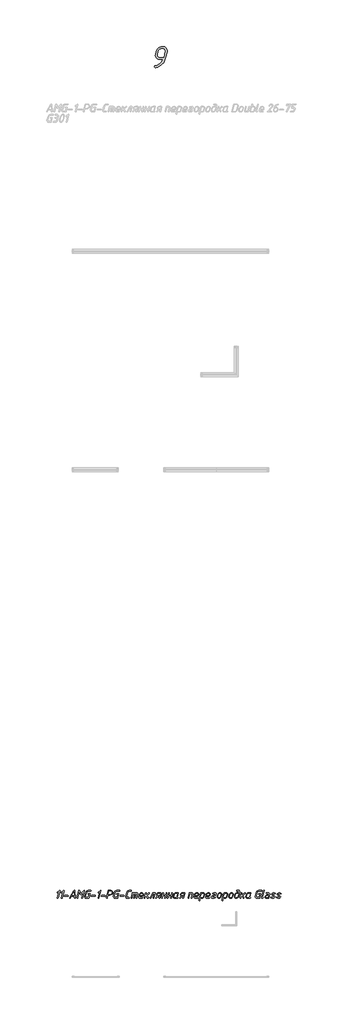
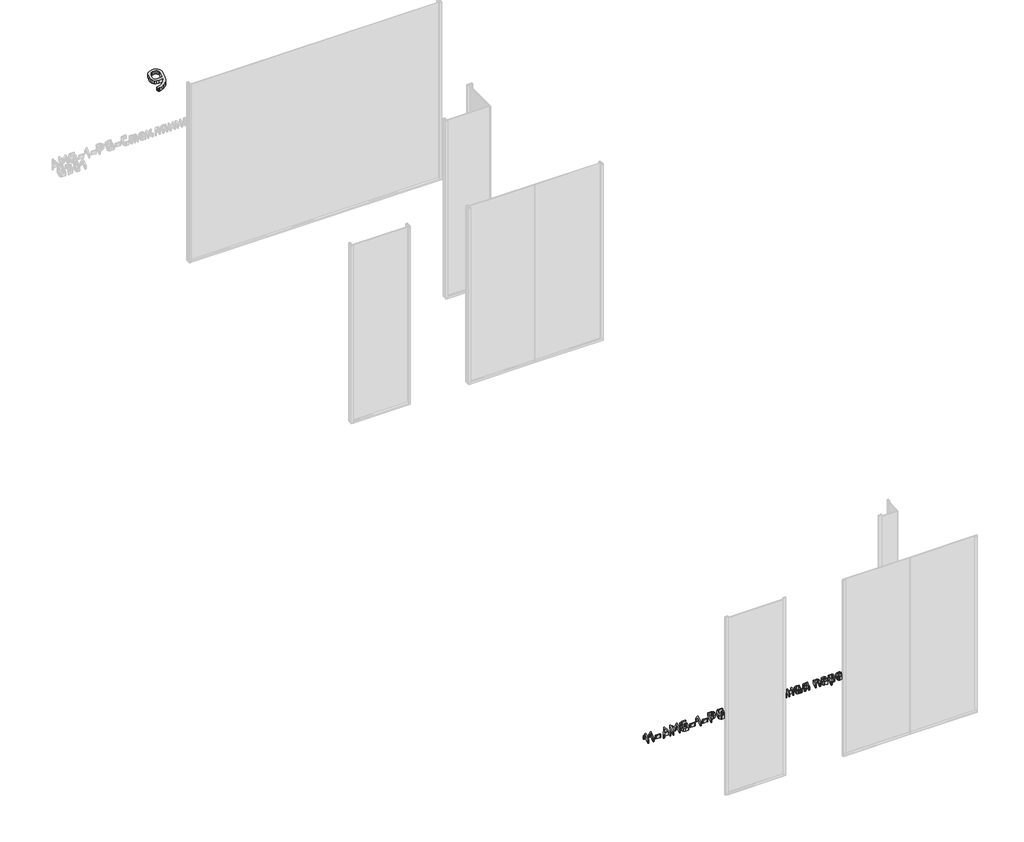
# One storey, part 5 of 22: 2 proxies.
"""IFC4 building model written with IfcOpenShell, lengths in millimetres."""

import ifcopenshell
import ifcopenshell.guid

model = None  # the IFC model being written
_history = None  # IfcOwnerHistory: only IFC2X3 demands one
_inside = {}  # id of a spatial element -> (the spatial element, [elements in it])
_under = {}  # id of a project, library or spatial element -> (it, [spatial elements below it])
_declared = {}  # id of a project -> (the project, [libraries it declares])
_typed = {}  # id of a type object -> (the type object, [elements of that type])
_made_of = {}  # id of a material, layer set ... -> (it, [elements and type objects made of it])


def new_model(schema):
    """Start an empty IFC model of exactly this schema.

    Asked for "IFC4X3", IfcOpenShell would pick the latest addendum, in which some entities
    have other attributes; the version numbers below select the first issue.
    IFC2X3 requires an IfcOwnerHistory on every rooted entity: one is made here for all.
    """
    global model, _history
    if schema == "IFC4X3":
        model = ifcopenshell.file(schema_version=(4, 3, 0, 0))
    else:
        model = ifcopenshell.file(schema=schema)
    _inside.clear()
    _under.clear()
    _declared.clear()
    _typed.clear()
    _made_of.clear()
    _history = None
    if model.schema == "IFC2X3":
        org = make("IfcOrganization", Name="unknown")
        user = make(
            "IfcPersonAndOrganization",
            ThePerson=make("IfcPerson", FamilyName="unknown"),
            TheOrganization=org,
        )
        app = make(
            "IfcApplication",
            ApplicationDeveloper=org,
            Version="unknown",
            ApplicationFullName="unknown",
            ApplicationIdentifier="unknown",
        )
        _history = make(
            "IfcOwnerHistory",
            OwningUser=user,
            OwningApplication=app,
            ChangeAction="ADDED",
            CreationDate=0,
        )
    return model


def make(cls, **values):
    """One entity of the class cls with the attributes given. An attribute that is None is left unset."""
    return model.create_entity(
        cls, **{name: value for name, value in values.items() if value is not None}
    )


def rooted(cls, **values):
    """An entity with a GlobalId (a new one), such as an element, a storey or a relation."""
    return make(cls, GlobalId=ifcopenshell.guid.new(), OwnerHistory=_history, **values)


def si_unit(unit_type, name, prefix=None):
    """IfcSIUnit, for example si_unit("LENGTHUNIT", "METRE", prefix="MILLI")."""
    return make("IfcSIUnit", UnitType=unit_type, Prefix=prefix, Name=name)


def assignment(units):
    """IfcUnitAssignment: the units of a project."""
    return None if units is None else make("IfcUnitAssignment", Units=units)


def point(xyz):
    """IfcCartesianPoint."""
    return None if xyz is None else make("IfcCartesianPoint", Coordinates=xyz)


def direction(xyz):
    """IfcDirection."""
    return None if xyz is None else make("IfcDirection", DirectionRatios=xyz)


def frame(location, z_axis=None, x_axis=None):
    """IfcAxis2Placement3D, a coordinate frame: its origin and axes. An axis left out is left unset."""
    return make(
        "IfcAxis2Placement3D",
        Location=point(location),
        Axis=direction(z_axis),
        RefDirection=direction(x_axis),
    )


def origin():
    """The frame at (0, 0, 0) with its axes left unset."""
    return frame((0.0, 0.0, 0.0))


def origin_with_axes():
    """The frame at (0, 0, 0) with the z axis (0, 0, 1) and the x axis (1, 0, 0) written out."""
    return frame((0.0, 0.0, 0.0), z_axis=(0.0, 0.0, 1.0), x_axis=(1.0, 0.0, 0.0))


def place(relative_to, where):
    """IfcLocalPlacement: puts the frame where relative to a parent placement (None: the world)."""
    return make(
        "IfcLocalPlacement", PlacementRelTo=relative_to, RelativePlacement=where
    )


def context(
    kind, dimensions, precision=None, world=None, true_north=None, identifier=None
):
    """IfcGeometricRepresentationContext, for example the 3D "Model" context."""
    return make(
        "IfcGeometricRepresentationContext",
        ContextIdentifier=identifier,
        ContextType=kind,
        CoordinateSpaceDimension=dimensions,
        Precision=precision,
        WorldCoordinateSystem=world,
        TrueNorth=true_north,
    )


def project(units=None, contexts=None):
    """IfcProject with its units and contexts."""
    return rooted(
        "IfcProject",
        Name="project",
        RepresentationContexts=contexts,
        UnitsInContext=assignment(units),
    )


def spatial(cls, under=None, at=None, **own):
    """A site, building, storey or space (cls), placed at a placement, below another one or the project."""
    s = rooted(cls, ObjectPlacement=at, **own)
    if under is not None:
        _under.setdefault(under.id(), (under, []))[1].append(s)
    return s


def polyline(points):
    """IfcPolyline through the points."""
    return make("IfcPolyline", Points=[point(p) for p in points])


def outline(outer, holes=None, kind="AREA"):
    """IfcArbitraryClosedProfileDef: a profile drawn as a closed curve; with holes, ...WithVoids."""
    if holes is None:
        return make("IfcArbitraryClosedProfileDef", ProfileType=kind, OuterCurve=outer)
    return make(
        "IfcArbitraryProfileDefWithVoids",
        ProfileType=kind,
        OuterCurve=outer,
        InnerCurves=holes,
    )


def extrude(swept, where, along, depth):
    """IfcExtrudedAreaSolid: the profile swept, set in the frame where, extruded along a direction by depth."""
    return make(
        "IfcExtrudedAreaSolid",
        SweptArea=swept,
        Position=where,
        ExtrudedDirection=direction(along),
        Depth=depth,
    )


def shape(context_of_items, identifier, shape_type, items):
    """IfcShapeRepresentation: the items that make up one representation, for example the "Body"."""
    return make(
        "IfcShapeRepresentation",
        ContextOfItems=context_of_items,
        RepresentationIdentifier=identifier,
        RepresentationType=shape_type,
        Items=items,
    )


def made_of(thing, what):
    """Note that an element or type object is made of a material, layer set ...; save() writes the relation."""
    if what is not None:
        _made_of.setdefault(what.id(), (what, []))[1].append(thing)
    return thing


def element(
    cls,
    number,
    at=None,
    inside=None,
    cuts=None,
    type_object=None,
    material=None,
    context=None,
    identifier="Body",
    shape_type=None,
    held_by="IfcProductDefinitionShape",
    body=None,
    shapes=None,
    **own,
):
    """One element of the class cls, such as IfcWall. Its Tag is "e" and its number.

    at: its placement. inside: the storey or other place that contains it. cuts: it is an
    opening in that element (IfcRelVoidsElement). A single representation is given by context,
    identifier, shape_type and body (its items); several are given by shapes. held_by: the class
    of the entity that holds the representations. save() writes the other relations.
    """
    e = rooted(cls, Tag="e%d" % number, ObjectPlacement=at, **own)
    if body is not None:
        shapes = [shape(context, identifier, shape_type, body)]
    if shapes is not None:
        e.Representation = make(held_by, Representations=shapes)
    if inside is not None:
        _inside.setdefault(inside.id(), (inside, []))[1].append(e)
    if cuts is not None:
        rooted(
            "IfcRelVoidsElement", RelatingBuildingElement=cuts, RelatedOpeningElement=e
        )
    if type_object is not None:
        _typed.setdefault(type_object.id(), (type_object, []))[1].append(e)
    return made_of(e, material)


def aggregate(whole, parts):
    """IfcRelAggregates: a whole, such as a stair, and the parts it consists of."""
    return rooted("IfcRelAggregates", RelatingObject=whole, RelatedObjects=parts)


def save(model, path):
    """Write the relations noted so far, then the file.

    IfcRelAggregates (storeys below a building ...), IfcRelContainedInSpatialStructure (elements
    in a storey), IfcRelDefinesByType, IfcRelAssociatesMaterial and IfcRelDeclares: one each for
    every whole, place, type object, material and project.
    """
    for whole, parts in _under.values():
        aggregate(whole, parts)
    for where, things in _inside.values():
        rooted(
            "IfcRelContainedInSpatialStructure",
            RelatedElements=things,
            RelatingStructure=where,
        )
    for kind, things in _typed.values():
        rooted("IfcRelDefinesByType", RelatedObjects=things, RelatingType=kind)
    for what, things in _made_of.values():
        rooted("IfcRelAssociatesMaterial", RelatedObjects=things, RelatingMaterial=what)
    for by, libraries in _declared.values():
        rooted("IfcRelDeclares", RelatingContext=by, RelatedDefinitions=libraries)
    model.write(path)


model = new_model("IFC4")

# Units and contexts
model_context = context("Model", 3, world=origin())
ifc_project = project(units=[si_unit("LENGTHUNIT", "METRE", prefix="MILLI")], contexts=[model_context])

# Site, building, storey
site = spatial("IfcSite", under=ifc_project)
building = spatial("IfcBuilding", under=site)
storey = spatial("IfcBuildingStorey", under=building, Name="Уровень 1", Elevation=0.0)

# Proxies
placement = place(None, origin())
element("IfcBuildingElementProxy", 1, Name="100", ObjectType="100", at=placement, inside=storey, context=model_context, shape_type="SweptSolid", body=[
    extrude(outline(polyline([(-34022.593669, -50085.838992), (-34007.6750749, -50087.480337), (-33993.6021231, -50092.4043719), (-33967.9931461, -50112.1005118), (-33950.0548768, -50139.6538), (-33944.0754537, -50169.7906252), (-33946.2062058, -50185.9843412), (-33978.2740251, -50307.4372115), (-33989.6785428, -50342.3748875), (-34004.3424454, -50373.7835054), (-34022.2657329, -50401.663065), (-34043.4484053, -50426.0135665), (-34067.8904625, -50446.8350098), (-34095.5919046, -50464.1273949), (-34126.5527315, -50477.8907218), (-34160.7729434, -50488.1249905), (-34165.8867484, -50488.1249905), (-34173.5175044, -50486.633464), (-34180.0029812, -50482.1588846), (-34185.9158183, -50468.5220711), (-34182.5865181, -50455.44458), (-34172.5986176, -50450.0910653), (-34137.654283, -50441.7811321), (-34104.41455, -50425.8004913), (-34077.307388, -50406.0710584), (-34055.4338859, -50383.7447715), (-34038.7940436, -50358.8216304), (-34027.3878612, -50331.3016352), (-34087.0489203, -50331.3016352), (-34118.6639548, -50325.6018733), (-34132.2142065, -50318.4771709), (-34144.2596145, -50308.5025876), (-34161.1990938, -50282.8003902), (-34166.8455869, -50251.2918934), (-34164.0756091, -50229.0255338), (-34153.2087734, -50188.1150933), (-34141.835884, -50155.0351668), (-34127.10706, -50128.8801846), (-34108.6294441, -50110.0496629), (-34085.0513402, -50096.5992902), (-34056.3727485, -50088.5290665), (-34022.593669, -50085.838992)]), holes=[polyline([(-34033.1408919, -50126.7494325), (-34061.3400644, -50130.5847863), (-34083.8261578, -50142.0908477), (-34100.599172, -50161.2676167), (-34111.6591072, -50188.1150933), (-34122.525943, -50229.0255338), (-34125.9351464, -50251.931119), (-34122.82558, -50268.7574021), (-34113.4968809, -50280.7761757), (-34097.9490491, -50287.9874399), (-34076.1820846, -50290.3911946), (-34014.0706605, -50290.3911946), (-33987.4362592, -50188.1150933), (-33984.9858942, -50172.8802157), (-33988.4350492, -50154.1961832), (-33998.7825141, -50139.4806764), (-34014.2704185, -50129.9322435), (-34033.1408919, -50126.7494325)])]), origin_with_axes(), (0.0, 0.0, 1.0), 50.0),
])
element("IfcBuildingElementProxy", 2, Name="30", ObjectType="30", at=placement, inside=storey, context=model_context, shape_type="SweptSolid", body=[
    extrude(outline(polyline([(-36008.4270725, -66210.2044631), (-36029.8810828, -66226.7044747), (-36035.4743071, -66228.182684), (-36040.5281848, -66225.4060477), (-36041.9464667, -66219.752896), (-36038.9900481, -66214.7589457), (-35999.9173813, -66185.6741794), (-35995.4827535, -66183.1172769), (-35989.8495776, -66184.9750264), (-35987.9718523, -66190.5482749), (-35988.2115619, -66192.7056614), (-36024.447665, -66328.381302), (-36027.0345312, -66332.5762202), (-36031.5990017, -66333.9745263), (-36036.892589, -66331.7372366), (-36039.2297577, -66326.6633831), (-36038.8701933, -66324.3861418), (-36008.4270725, -66210.2044631)])), origin_with_axes(), (0.0, 0.0, 1.0), 50.0),
    extrude(outline(polyline([(-35931.7199965, -66210.2044631), (-35953.1740069, -66226.7044747), (-35958.7672311, -66228.182684), (-35963.8211088, -66225.4060477), (-35965.2393907, -66219.752896), (-35962.2829721, -66214.7589457), (-35923.2103053, -66185.6741794), (-35918.7756775, -66183.1172769), (-35913.1425016, -66184.9750264), (-35911.2647763, -66190.5482749), (-35911.5044859, -66192.7056614), (-35947.740589, -66328.381302), (-35950.3274552, -66332.5762202), (-35954.8919257, -66333.9745263), (-35960.185513, -66331.7372366), (-35962.5226817, -66326.6633831), (-35962.1631173, -66324.3861418), (-35931.7199965, -66210.2044631)])), origin_with_axes(), (0.0, 0.0, 1.0), 50.0),
    extrude(outline(polyline([(-35837.0346996, -66295.6209883), (-35899.1194892, -66295.6209883), (-35904.7227014, -66293.7033114), (-35906.5904388, -66287.9502807), (-35904.7227014, -66282.19725), (-35899.1194892, -66280.2795731), (-35837.0346996, -66280.2795731), (-35831.4314874, -66282.19725), (-35829.56375, -66287.9502807), (-35831.4314874, -66293.7033114), (-35837.0346996, -66295.6209883)])), origin_with_axes(), (0.0, 0.0, 1.0), 50.0),
    extrude(outline(polyline([(-35715.9813453, -66295.6209883), (-35772.1133462, -66295.6209883), (-35792.8881793, -66330.2590273), (-35799.2804357, -66333.9745263), (-35804.5939987, -66331.7372366), (-35806.7513852, -66326.4236735), (-35805.6327404, -66322.4285133), (-35723.0128273, -66186.6729695), (-35716.5406678, -66183.1172769), (-35711.1871531, -66184.8551716), (-35709.0297666, -66190.0688556), (-35698.6023984, -66326.6633831), (-35700.5000995, -66332.1467405), (-35706.1932028, -66333.9745263), (-35711.5167538, -66332.2066679), (-35713.5842492, -66326.9030927), (-35715.9813453, -66295.6209883)]), holes=[polyline([(-35717.0999902, -66280.2795731), (-35722.2137953, -66213.8001073), (-35762.8845262, -66280.2795731), (-35717.0999902, -66280.2795731)])]), origin_with_axes(), (0.0, 0.0, 1.0), 50.0),
    extrude(outline(polyline([(-35620.8965324, -66213.7601557), (-35651.459508, -66328.381302), (-35653.9964347, -66332.5762202), (-35658.6507963, -66333.9745263), (-35663.9244078, -66331.7372366), (-35666.2416007, -66326.6633831), (-35665.9219879, -66324.3861418), (-35629.6459332, -66188.7105012), (-35627.1189944, -66184.5155829), (-35622.4945965, -66183.1172769), (-35615.4631145, -66187.6717595), (-35591.3722984, -66244.9623569), (-35534.6410235, -66185.514373), (-35529.3274604, -66183.1172769), (-35523.6942845, -66184.9750264), (-35521.8165592, -66190.5482749), (-35522.0562688, -66192.7056614), (-35558.2923719, -66328.381302), (-35560.8792382, -66332.5762202), (-35565.4437087, -66333.9745263), (-35570.737296, -66331.7372366), (-35573.0744647, -66326.6633831), (-35572.7149003, -66324.3861418), (-35544.0696016, -66217.0761386), (-35588.6555895, -66263.5798035), (-35593.9691526, -66265.8170932), (-35600.8008765, -66261.3025621), (-35620.8965324, -66213.7601557)])), origin_with_axes(), (0.0, 0.0, 1.0), 50.0),
    extrude(outline(polyline([(-35404.2389943, -66198.4586921), (-35452.9000457, -66198.4586921), (-35465.5647035, -66201.2453163), (-35476.0719749, -66209.6051891), (-35482.1046668, -66220.9913956), (-35502.3201774, -66296.1004075), (-35503.1192095, -66301.6936318), (-35497.945477, -66313.9587737), (-35485.0610853, -66318.6331111), (-35446.1881765, -66318.6331111), (-35430.0477293, -66259.8243529), (-35443.7910804, -66259.8243529), (-35449.4242563, -66257.906676), (-35451.3019816, -66252.1536453), (-35449.4242563, -66246.4006146), (-35443.7910804, -66244.4829377), (-35418.3419099, -66244.4829377), (-35413.907282, -66245.8412921), (-35412.4290727, -66249.9163555), (-35412.5489276, -66251.9538873), (-35432.684535, -66326.5035767), (-35436.1703123, -66332.1067889), (-35442.5525807, -66333.9745263), (-35489.1361487, -66333.9745263), (-35503.3589191, -66329.8295476), (-35514.3855612, -66317.3946115), (-35518.5804795, -66302.5326155), (-35517.7814474, -66296.260214), (-35497.6857916, -66220.8315892), (-35487.7378427, -66200.0567562), (-35471.0780246, -66187.3521467), (-35448.7850306, -66183.1172769), (-35404.2389943, -66183.1172769), (-35398.6357821, -66185.0349538), (-35396.7680447, -66190.7879845), (-35398.6357821, -66196.5410152), (-35404.2389943, -66198.4586921)])), origin_with_axes(), (0.0, 0.0, 1.0), 50.0),
    extrude(outline(polyline([(-35320.540388, -66295.6209883), (-35382.6251776, -66295.6209883), (-35388.2283898, -66293.7033114), (-35390.0961272, -66287.9502807), (-35388.2283898, -66282.19725), (-35382.6251776, -66280.2795731), (-35320.540388, -66280.2795731), (-35314.9371758, -66282.19725), (-35313.0694384, -66287.9502807), (-35314.9371758, -66293.7033114), (-35320.540388, -66295.6209883)])), origin_with_axes(), (0.0, 0.0, 1.0), 50.0),
    extrude(outline(polyline([(-35228.5718, -66210.2044631), (-35250.0258103, -66226.7044747), (-35255.6190346, -66228.182684), (-35260.6729123, -66225.4060477), (-35262.0911941, -66219.752896), (-35259.1347756, -66214.7589457), (-35220.0621087, -66185.6741794), (-35215.6274809, -66183.1172769), (-35209.994305, -66184.9750264), (-35208.1165797, -66190.5482749), (-35208.3562893, -66192.7056614), (-35244.5923924, -66328.381302), (-35247.1792587, -66332.5762202), (-35251.7437292, -66333.9745263), (-35257.0373165, -66331.7372366), (-35259.3744852, -66326.6633831), (-35259.0149208, -66324.3861418), (-35228.5718, -66210.2044631)])), origin_with_axes(), (0.0, 0.0, 1.0), 50.0),
    extrude(outline(polyline([(-35133.8865031, -66295.6209883), (-35195.9712927, -66295.6209883), (-35201.5745049, -66293.7033114), (-35203.4422423, -66287.9502807), (-35201.5745049, -66282.19725), (-35195.9712927, -66280.2795731), (-35133.8865031, -66280.2795731), (-35128.2832909, -66282.19725), (-35126.4155535, -66287.9502807), (-35128.2832909, -66293.7033114), (-35133.8865031, -66295.6209883)])), origin_with_axes(), (0.0, 0.0, 1.0), 50.0),
    extrude(outline(polyline([(-35043.2762696, -66275.1657681), (-35074.3186644, -66275.1657681), (-35088.9409507, -66328.5011568), (-35091.5378049, -66332.6061839), (-35096.1322391, -66333.9745263), (-35101.4058506, -66331.7372366), (-35103.7230435, -66326.6633831), (-35103.4034307, -66324.3861418), (-35067.72665, -66190.6681297), (-35064.2708364, -66185.0049901), (-35057.8186527, -66183.1172769), (-35018.9457439, -66183.1172769), (-35001.8164945, -66188.1411908), (-34988.6224779, -66203.2129327), (-34983.6285277, -66221.5906697), (-34984.5074629, -66229.1415225), (-34996.542883, -66253.7716851), (-35016.9082122, -66269.5725438), (-35043.2762696, -66275.1657681)]), holes=[polyline([(-35039.2012061, -66259.8243529), (-35022.751134, -66255.9290717), (-35008.3985209, -66244.2432281), (-35001.4169785, -66233.1866222), (-34999.0897977, -66221.5906697), (-35002.0362283, -66209.7749834), (-35010.8755203, -66201.4950138), (-35023.1806137, -66198.4586921), (-35054.1830569, -66198.4586921), (-35070.3235042, -66259.8243529), (-35039.2012061, -66259.8243529)])]), origin_with_axes(), (0.0, 0.0, 1.0), 50.0),
    extrude(outline(polyline([(-34857.0618523, -66198.4586921), (-34905.7229036, -66198.4586921), (-34918.3875615, -66201.2453163), (-34928.8948328, -66209.6051891), (-34934.9275247, -66220.9913956), (-34955.1430354, -66296.1004075), (-34955.9420674, -66301.6936318), (-34950.7683349, -66313.9587737), (-34937.8839433, -66318.6331111), (-34899.0110345, -66318.6331111), (-34882.8705872, -66259.8243529), (-34896.6139383, -66259.8243529), (-34902.2471142, -66257.906676), (-34904.1248395, -66252.1536453), (-34902.2471142, -66246.4006146), (-34896.6139383, -66244.4829377), (-34871.1647678, -66244.4829377), (-34866.73014, -66245.8412921), (-34865.2519307, -66249.9163555), (-34865.3717855, -66251.9538873), (-34885.507393, -66326.5035767), (-34888.9931702, -66332.1067889), (-34895.3754387, -66333.9745263), (-34941.9590067, -66333.9745263), (-34956.181777, -66329.8295476), (-34967.2084192, -66317.3946115), (-34971.4033374, -66302.5326155), (-34970.6043054, -66296.260214), (-34950.5086495, -66220.8315892), (-34940.5607006, -66200.0567562), (-34923.9008826, -66187.3521467), (-34901.6078886, -66183.1172769), (-34857.0618523, -66183.1172769), (-34851.4586401, -66185.0349538), (-34849.5909027, -66190.7879845), (-34851.4586401, -66196.5410152), (-34857.0618523, -66198.4586921)])), origin_with_axes(), (0.0, 0.0, 1.0), 50.0),
    extrude(outline(polyline([(-34773.3632459, -66295.6209883), (-34835.4480356, -66295.6209883), (-34841.0512477, -66293.7033114), (-34842.9189851, -66287.9502807), (-34841.0512477, -66282.19725), (-34835.4480356, -66280.2795731), (-34773.3632459, -66280.2795731), (-34767.7600337, -66282.19725), (-34765.8922963, -66287.9502807), (-34767.7600337, -66293.7033114), (-34773.3632459, -66295.6209883)])), origin_with_axes(), (0.0, 0.0, 1.0), 50.0),
    extrude(outline(polyline([(-34608.8425486, -66234.81465), (-34606.285646, -66230.5598043), (-34601.571357, -66229.1415225), (-34529.6185217, -66229.1415225), (-34517.3933314, -66232.1478805), (-34508.9235918, -66241.1669547), (-34505.88727, -66253.0725321), (-34506.6863021, -66259.105224), (-34525.3037486, -66328.4212536), (-34527.8906149, -66332.5862081), (-34532.4550854, -66333.9745263), (-34537.7486727, -66331.7771882), (-34540.0858414, -66326.7432863), (-34539.726277, -66324.466045), (-34522.2274753, -66259.3848852), (-34521.4284432, -66253.8715642), (-34524.4747529, -66246.8300943), (-34533.6136819, -66244.4829377), (-34549.1548551, -66244.4829377), (-34571.8873167, -66328.4212536), (-34574.4741829, -66332.5862081), (-34579.0386534, -66333.9745263), (-34584.3322407, -66331.7771882), (-34586.6694094, -66326.7432863), (-34586.3497966, -66324.466045), (-34564.6161251, -66244.4829377), (-34595.7783747, -66244.4829377), (-34618.4708847, -66328.4212536), (-34621.0677388, -66332.5862081), (-34625.662173, -66333.9745263), (-34630.9357845, -66331.7572124), (-34633.2529774, -66326.7033347), (-34632.9333646, -66324.4260934), (-34608.8425486, -66234.81465)])), origin_with_axes(), (0.0, 0.0, 1.0), 50.0),
    extrude(outline(polyline([(-34673.5641439, -66318.6331111), (-34667.930968, -66320.550788), (-34666.0532427, -66326.3038187), (-34667.930968, -66332.0568494), (-34673.5641439, -66333.9745263), (-34706.6041189, -66333.9745263), (-34720.9567319, -66329.7995839), (-34731.9733862, -66317.2747566), (-34736.0484496, -66302.3328575), (-34735.2494175, -66296.260214), (-34715.2736165, -66220.8315892), (-34708.4518805, -66204.3315776), (-34698.0145244, -66192.545855), (-34683.9615484, -66185.4744214), (-34666.2929524, -66183.1172769), (-34637.4079441, -66183.1172769), (-34631.7747682, -66185.0349538), (-34629.8970429, -66190.7879845), (-34631.7747682, -66196.5410152), (-34637.4079441, -66198.4586921), (-34670.3680158, -66198.4586921), (-34682.9128188, -66201.2453163), (-34693.539945, -66209.6051891), (-34699.6924917, -66220.9913956), (-34719.7881475, -66296.1004075), (-34720.5871796, -66301.6936318), (-34715.4134471, -66313.9587737), (-34702.5290554, -66318.6331111), (-34673.5641439, -66318.6331111)])), origin_with_axes(), (0.0, 0.0, 1.0), 50.0),
    extrude(outline(polyline([(-34399.0966377, -66265.8969964), (-34405.1293296, -66287.9502807), (-34467.1741676, -66287.9502807), (-34471.1693278, -66303.2916959), (-34471.9683599, -66308.8849202), (-34468.9220502, -66316.1960634), (-34459.7831212, -66318.6331111), (-34422.9876957, -66318.6331111), (-34417.3545198, -66320.550788), (-34415.4767945, -66326.3038187), (-34417.3545198, -66332.0568494), (-34422.9876957, -66333.9745263), (-34463.7782814, -66333.9745263), (-34472.8373072, -66332.2166558), (-34480.5180027, -66326.9430444), (-34485.7616505, -66319.2323852), (-34487.5095331, -66310.1633715), (-34486.710501, -66304.0108248), (-34476.7226005, -66266.5761736), (-34469.8659068, -66249.3370573), (-34460.002855, -66237.8110201), (-34446.25451, -66231.3088969), (-34427.7419364, -66229.1415225), (-34416.2208931, -66231.2140118), (-34406.6674663, -66237.4314799), (-34400.2402523, -66246.6852697), (-34398.0978476, -66257.8667244), (-34399.0966377, -66265.8969964)]), holes=[polyline([(-34414.6777625, -66265.5773836), (-34413.4392628, -66257.7868212), (-34418.0336971, -66247.8089085), (-34431.8169998, -66244.4829377), (-34450.7540592, -66249.7565491), (-34457.0164728, -66256.3485635), (-34461.1414757, -66265.5773836), (-34463.218959, -66272.6088655), (-34416.5954394, -66272.6088655), (-34414.6777625, -66265.5773836)])]), origin_with_axes(), (0.0, 0.0, 1.0), 50.0),
    extrude(outline(polyline([(-34340.527589, -66285.6730394), (-34360.6232449, -66301.1343094), (-34367.8944364, -66328.4212536), (-34370.4313632, -66332.5862081), (-34375.0857248, -66333.9745263), (-34380.3593363, -66331.7572124), (-34382.6765292, -66326.7033347), (-34382.3569164, -66324.4260934), (-34358.2661003, -66234.6947952), (-34355.7391615, -66230.5298406), (-34351.1147636, -66229.1415225), (-34345.4815877, -66230.9892841), (-34343.6038624, -66236.5325689), (-34343.8036204, -66238.6899554), (-34354.1510853, -66277.3631062), (-34293.4646018, -66231.698425), (-34288.9500707, -66229.1415225), (-34283.6964351, -66231.4187638), (-34281.3193147, -66236.5325689), (-34284.3955881, -66242.645164), (-34328.382302, -66276.3243645), (-34306.2091628, -66323.1875938), (-34305.4101308, -66326.3837219), (-34307.6873721, -66331.697285), (-34313.0408868, -66333.9745263), (-34319.7128043, -66329.6597533), (-34340.527589, -66285.6730394)])), origin_with_axes(), (0.0, 0.0, 1.0), 50.0),
    extrude(outline(polyline([(-34178.7635522, -66229.1415225), (-34173.1303763, -66230.9892841), (-34171.252651, -66236.5325689), (-34171.4923606, -66238.6899554), (-34195.7030315, -66328.4212536), (-34198.2898977, -66332.5862081), (-34202.8543683, -66333.9745263), (-34208.1479555, -66331.7771882), (-34210.4851243, -66326.7432863), (-34210.1255598, -66324.466045), (-34188.5516947, -66244.4829377), (-34205.5710772, -66244.4829377), (-34258.6667564, -66330.4587853), (-34264.5396419, -66333.9745263), (-34270.4724548, -66332.1866921), (-34272.5299623, -66326.8231895), (-34271.3713658, -66322.6282713), (-34216.2781066, -66232.7771183), (-34209.7659954, -66229.1415225), (-34178.7635522, -66229.1415225)])), origin_with_axes(), (0.0, 0.0, 1.0), 50.0),
    extrude(outline(polyline([(-34108.9281518, -66287.9502807), (-34149.8385923, -66331.6573334), (-34155.192107, -66333.9745263), (-34160.7853313, -66332.1167768), (-34162.7829114, -66326.5435283), (-34160.6255249, -66320.950304), (-34128.8240496, -66286.9115391), (-34141.0292641, -66278.4417994), (-34145.6436741, -66264.5386419), (-34144.9644969, -66258.5459016), (-34139.4212121, -66244.9074234), (-34131.6606134, -66235.8733674), (-34120.7738018, -66230.8244837), (-34105.8518784, -66229.1415225), (-34069.0564529, -66229.1415225), (-34063.7628656, -66231.298909), (-34061.4256969, -66236.412714), (-34061.7852613, -66238.6899554), (-34085.9559806, -66328.4212536), (-34088.5528347, -66332.5862081), (-34093.147269, -66333.9745263), (-34098.7504812, -66332.0868131), (-34100.6182186, -66326.4236735), (-34100.4184605, -66324.2263354), (-34090.8700276, -66287.9502807), (-34108.9281518, -66287.9502807)]), holes=[polyline([(-34117.9172623, -66272.6088655), (-34086.8748674, -66272.6088655), (-34078.684789, -66244.4829377), (-34109.8470386, -66244.4829377), (-34122.3419022, -66247.9986786), (-34129.6230817, -66258.5459016), (-34130.3022589, -66263.6597067), (-34127.2060097, -66270.3715758), (-34117.9172623, -66272.6088655)])]), origin_with_axes(), (0.0, 0.0, 1.0), 50.0),
    extrude(outline(polyline([(-33980.9232187, -66287.9502807), (-34027.5067868, -66287.9502807), (-34038.0540097, -66328.2614472), (-34040.6209001, -66332.5462565), (-34045.3651529, -66333.9745263), (-34050.6187886, -66331.7572124), (-34052.9559573, -66326.7033347), (-34052.6363445, -66324.4260934), (-34028.5455284, -66234.6947952), (-34026.0086017, -66230.5298406), (-34021.35424, -66229.1415225), (-34016.040677, -66231.2190058), (-34013.7634356, -66236.2928592), (-34013.9631936, -66238.3703425), (-34023.5116265, -66272.6088655), (-33976.8082037, -66272.6088655), (-33966.2609808, -66234.5349887), (-33963.7340419, -66230.489889), (-33959.109644, -66229.1415225), (-33953.4764681, -66230.9892841), (-33951.5987428, -66236.5325689), (-33951.8384524, -66238.6899554), (-33975.9292685, -66328.4212536), (-33978.4562073, -66332.5862081), (-33983.0806052, -66333.9745263), (-33988.3542167, -66331.7172608), (-33990.6714096, -66326.5435283), (-33990.3517968, -66324.2263354), (-33980.9232187, -66287.9502807)])), origin_with_axes(), (0.0, 0.0, 1.0), 50.0),
    extrude(outline(polyline([(-33870.9764098, -66287.9502807), (-33917.5599778, -66287.9502807), (-33928.1072008, -66328.2614472), (-33930.6740912, -66332.5462565), (-33935.418344, -66333.9745263), (-33940.6719796, -66331.7572124), (-33943.0091484, -66326.7033347), (-33942.6895355, -66324.4260934), (-33918.5987195, -66234.6947952), (-33916.0617928, -66230.5298406), (-33911.4074311, -66229.1415225), (-33906.093868, -66231.2190058), (-33903.8166267, -66236.2928592), (-33904.0163847, -66238.3703425), (-33913.5648176, -66272.6088655), (-33866.8613948, -66272.6088655), (-33856.3141719, -66234.5349887), (-33853.787233, -66230.489889), (-33849.1628351, -66229.1415225), (-33843.5296592, -66230.9892841), (-33841.6519339, -66236.5325689), (-33841.8916435, -66238.6899554), (-33865.9824596, -66328.4212536), (-33868.5093984, -66332.5862081), (-33873.1337963, -66333.9745263), (-33878.4074078, -66331.7172608), (-33880.7246007, -66326.5435283), (-33880.4049879, -66324.2263354), (-33870.9764098, -66287.9502807)])), origin_with_axes(), (0.0, 0.0, 1.0), 50.0),
    extrude(outline(polyline([(-33804.0974279, -66333.9745263), (-33813.1564537, -66332.2466195), (-33820.8371492, -66327.0628992), (-33826.080797, -66319.4321432), (-33827.8286796, -66310.3631295), (-33827.0296475, -66304.0108248), (-33815.0042153, -66259.105224), (-33809.4409547, -66245.2020665), (-33801.380719, -66235.9332948), (-33790.5138832, -66230.8394656), (-33775.8915969, -66229.1415225), (-33737.0586397, -66229.1415225), (-33732.1645684, -66231.2789332), (-33731.2257057, -66236.6124721), (-33751.481168, -66311.1621615), (-33751.8007808, -66313.1996932), (-33750.3025957, -66317.2747566), (-33745.8080405, -66318.6331111), (-33740.6043443, -66320.550788), (-33740.0150582, -66326.3038187), (-33743.351017, -66332.0568494), (-33749.7632491, -66333.9745263), (-33759.8210649, -66331.797164), (-33765.2245191, -66325.2650771), (-33774.373436, -66331.797164), (-33788.6361579, -66333.9745263), (-33804.0974279, -66333.9745263)]), holes=[polyline([(-33800.1022677, -66318.6331111), (-33784.5610945, -66318.6331111), (-33772.5556381, -66314.0786285), (-33764.8649547, -66303.8110667), (-33748.8443623, -66244.4829377), (-33779.8867571, -66244.4829377), (-33792.6313181, -66248.1884488), (-33799.5429453, -66259.304982), (-33811.4884743, -66303.8110667), (-33812.2875064, -66309.0846782), (-33809.2411967, -66316.2460029), (-33800.1022677, -66318.6331111)])]), origin_with_axes(), (0.0, 0.0, 1.0), 50.0),
    extrude(outline(polyline([(-33653.7995009, -66287.9502807), (-33694.7099415, -66331.6573334), (-33700.0634561, -66333.9745263), (-33705.6566804, -66332.1167768), (-33707.6542605, -66326.5435283), (-33705.496874, -66320.950304), (-33673.6953988, -66286.9115391), (-33685.9006132, -66278.4417994), (-33690.5150232, -66264.5386419), (-33689.835846, -66258.5459016), (-33684.2925612, -66244.9074234), (-33676.5319625, -66235.8733674), (-33665.6451509, -66230.8244837), (-33650.7232276, -66229.1415225), (-33613.9278021, -66229.1415225), (-33608.6342148, -66231.298909), (-33606.2970461, -66236.412714), (-33606.6566105, -66238.6899554), (-33630.8273297, -66328.4212536), (-33633.4241839, -66332.5862081), (-33638.0186181, -66333.9745263), (-33643.6218303, -66332.0868131), (-33645.4895677, -66326.4236735), (-33645.2898097, -66324.2263354), (-33635.7413768, -66287.9502807), (-33653.7995009, -66287.9502807)]), holes=[polyline([(-33662.7886114, -66272.6088655), (-33631.7462166, -66272.6088655), (-33623.5561382, -66244.4829377), (-33654.7183878, -66244.4829377), (-33667.2132513, -66247.9986786), (-33674.4944308, -66258.5459016), (-33675.173608, -66263.6597067), (-33672.0773589, -66270.3715758), (-33662.7886114, -66272.6088655)])]), origin_with_axes(), (0.0, 0.0, 1.0), 50.0),
    extrude(outline(polyline([(-33522.1589721, -66234.81465), (-33519.6020695, -66230.5598043), (-33514.8877805, -66229.1415225), (-33473.97734, -66229.1415225), (-33464.6136832, -66230.8294777), (-33456.9779333, -66235.8933432), (-33451.8990859, -66243.5340871), (-33450.2061367, -66252.9526773), (-33451.0051688, -66259.105224), (-33469.662567, -66328.4212536), (-33472.2294574, -66332.5862081), (-33476.8139037, -66333.9745263), (-33482.0875152, -66331.7771882), (-33484.4047081, -66326.7432863), (-33484.0850953, -66324.466045), (-33466.5862936, -66259.3848852), (-33465.7872616, -66253.991419), (-33468.8235833, -66246.860058), (-33477.9325486, -66244.4829377), (-33509.0947982, -66244.4829377), (-33531.7873082, -66328.4212536), (-33534.3841623, -66332.5862081), (-33538.9785966, -66333.9745263), (-33544.252208, -66331.7572124), (-33546.5694009, -66326.7033347), (-33546.2497881, -66324.4260934), (-33522.1589721, -66234.81465)])), origin_with_axes(), (0.0, 0.0, 1.0), 50.0),
    extrude(outline(polyline([(-33343.0958916, -66265.8969964), (-33349.1285835, -66287.9502807), (-33411.1734215, -66287.9502807), (-33415.1685817, -66303.2916959), (-33415.9676138, -66308.8849202), (-33412.9213041, -66316.1960634), (-33403.7823751, -66318.6331111), (-33366.9869496, -66318.6331111), (-33361.3537737, -66320.550788), (-33359.4760484, -66326.3038187), (-33361.3537737, -66332.0568494), (-33366.9869496, -66333.9745263), (-33407.7775353, -66333.9745263), (-33416.8365611, -66332.2166558), (-33424.5172566, -66326.9430444), (-33429.7609044, -66319.2323852), (-33431.508787, -66310.1633715), (-33430.7097549, -66304.0108248), (-33420.7218544, -66266.5761736), (-33413.8651607, -66249.3370573), (-33404.0021089, -66237.8110201), (-33390.2537639, -66231.3088969), (-33371.7411903, -66229.1415225), (-33360.220147, -66231.2140118), (-33350.6667202, -66237.4314799), (-33344.2395062, -66246.6852697), (-33342.0971015, -66257.8667244), (-33343.0958916, -66265.8969964)]), holes=[polyline([(-33358.6770164, -66265.5773836), (-33357.4385167, -66257.7868212), (-33362.032951, -66247.8089085), (-33375.8162537, -66244.4829377), (-33394.7533131, -66249.7565491), (-33401.0157267, -66256.3485635), (-33405.1407296, -66265.5773836), (-33407.2182129, -66272.6088655), (-33360.5946933, -66272.6088655), (-33358.6770164, -66265.5773836)])]), origin_with_axes(), (0.0, 0.0, 1.0), 50.0),
    extrude(outline(polyline([(-33302.2653542, -66234.8546016), (-33299.7084517, -66230.5697922), (-33294.9941627, -66229.1415225), (-33254.0837221, -66229.1415225), (-33244.9198234, -66230.8844111), (-33237.2441219, -66236.113077), (-33232.0454196, -66243.8087544), (-33230.3125189, -66252.9526773), (-33231.111551, -66259.105224), (-33243.1769348, -66304.0108248), (-33248.7252135, -66317.844067), (-33256.7405037, -66327.0628992), (-33267.7721398, -66332.2466195), (-33282.3694564, -66333.9745263), (-33313.3718996, -66333.9745263), (-33323.9590742, -66374.2856928), (-33326.486013, -66378.5705021), (-33331.1104109, -66379.9987719), (-33336.4039982, -66377.7614822), (-33338.7411669, -66372.6876287), (-33338.3816025, -66370.4103874), (-33302.2653542, -66234.8546016)]), holes=[polyline([(-33289.2011804, -66244.4829377), (-33309.416691, -66318.6331111), (-33278.294393, -66318.6331111), (-33265.5198682, -66314.9276), (-33258.5982532, -66303.8110667), (-33246.6926758, -66259.304982), (-33245.8936437, -66253.9115158), (-33248.9299655, -66246.8400822), (-33258.0389308, -66244.4829377), (-33289.2011804, -66244.4829377)])]), origin_with_axes(), (0.0, 0.0, 1.0), 50.0),
    extrude(outline(polyline([(-33123.2022737, -66265.8969964), (-33129.2349657, -66287.9502807), (-33191.2798037, -66287.9502807), (-33195.2749639, -66303.2916959), (-33196.0739959, -66308.8849202), (-33193.0276863, -66316.1960634), (-33183.8887573, -66318.6331111), (-33147.0933318, -66318.6331111), (-33141.4601559, -66320.550788), (-33139.5824306, -66326.3038187), (-33141.4601559, -66332.0568494), (-33147.0933318, -66333.9745263), (-33187.8839175, -66333.9745263), (-33196.9429433, -66332.2166558), (-33204.6236388, -66326.9430444), (-33209.8672865, -66319.2323852), (-33211.6151691, -66310.1633715), (-33210.8161371, -66304.0108248), (-33200.8282366, -66266.5761736), (-33193.9715429, -66249.3370573), (-33184.1084911, -66237.8110201), (-33170.360146, -66231.3088969), (-33151.8475724, -66229.1415225), (-33140.3265292, -66231.2140118), (-33130.7731023, -66237.4314799), (-33124.3458884, -66246.6852697), (-33122.2034837, -66257.8667244), (-33123.2022737, -66265.8969964)]), holes=[polyline([(-33138.7833986, -66265.5773836), (-33137.5448989, -66257.7868212), (-33142.1393331, -66247.8089085), (-33155.9226358, -66244.4829377), (-33174.8596952, -66249.7565491), (-33181.1221089, -66256.3485635), (-33185.2471118, -66265.5773836), (-33187.3245951, -66272.6088655), (-33140.7010755, -66272.6088655), (-33138.7833986, -66265.5773836)])]), origin_with_axes(), (0.0, 0.0, 1.0), 50.0),
    extrude(outline(polyline([(-33050.6501644, -66331.0580594), (-33081.7724624, -66333.9745263), (-33089.7028554, -66332.3764622), (-33096.3947487, -66327.58227), (-33100.9492314, -66320.6706428), (-33102.4673923, -66312.720274), (-33100.7694492, -66303.5613692), (-33095.6756199, -66294.7820047), (-33080.0944951, -66283.1161369), (-33034.7494267, -66265.3776256), (-33027.498211, -66260.1839173), (-33025.081139, -66252.0337905), (-33027.3883441, -66246.3706509), (-33034.3099591, -66244.4829377), (-33052.2182648, -66246.1009775), (-33065.75187, -66250.9550972), (-33069.3874657, -66251.9938389), (-33074.681053, -66249.7165975), (-33076.8983669, -66244.4829377), (-33073.1429163, -66237.8509717), (-33055.104768, -66231.3188848), (-33030.3147989, -66229.1415225), (-33020.2070436, -66231.9081709), (-33012.5762876, -66240.2081162), (-33009.619869, -66250.7153876), (-33012.0669047, -66261.2326468), (-33019.4080115, -66271.5301723), (-33031.7930082, -66279.7602023), (-33077.1380765, -66297.3788588), (-33084.4492197, -66302.6624582), (-33086.8862675, -66310.8425487), (-33084.619014, -66316.6854705), (-33077.8172538, -66318.6331111), (-33056.2234129, -66316.8952164), (-33036.6671036, -66311.6815324), (-33033.9503947, -66311.1222099), (-33028.3172188, -66312.9999352), (-33026.4394935, -66318.6331111), (-33028.8865291, -66323.8867468), (-33036.227636, -66327.8219796), (-33050.6501644, -66331.0580594)])), origin_with_axes(), (0.0, 0.0, 1.0), 50.0),
    extrude(outline(polyline([(-32988.8849876, -66296.5398752), (-32980.9346187, -66266.5761736), (-32974.077925, -66249.3370573), (-32964.2148733, -66237.8110201), (-32950.4665282, -66231.3088969), (-32931.9539546, -66229.1415225), (-32920.4329114, -66231.2539634), (-32910.8794845, -66237.5912863), (-32904.4522705, -66247.0248583), (-32902.3098659, -66258.4260468), (-32903.3086559, -66266.5761736), (-32911.2590247, -66296.5398752), (-32921.167022, -66318.0737887), (-32936.7880985, -66329.9993419), (-32960.2396889, -66333.9745263), (-32971.7657261, -66331.8620854), (-32981.3341348, -66325.5247625), (-32987.7763306, -66316.0911904), (-32989.9237292, -66304.690002), (-32988.8849876, -66296.5398752)]), holes=[polyline([(-32926.8401495, -66296.3800688), (-32918.8897807, -66266.73598), (-32917.6512811, -66258.4260468), (-32922.2457153, -66247.9687149), (-32936.029018, -66244.4829377), (-32946.6111986, -66245.8737528), (-32955.0260048, -66250.0461983), (-32961.2734366, -66257.000274), (-32965.3534939, -66266.73598), (-32973.4237176, -66296.3800688), (-32974.7021688, -66304.690002), (-32970.0977467, -66315.1473338), (-32956.2844803, -66318.6331111), (-32945.664845, -66317.242296), (-32937.2175782, -66313.0698505), (-32930.9426797, -66306.1157748), (-32926.8401495, -66296.3800688)])]), origin_with_axes(), (0.0, 0.0, 1.0), 50.0),
    extrude(outline(polyline([(-32862.4781186, -66234.8546016), (-32859.9212161, -66230.5697922), (-32855.206927, -66229.1415225), (-32814.2964865, -66229.1415225), (-32805.1325878, -66230.8844111), (-32797.4568862, -66236.113077), (-32792.258184, -66243.8087544), (-32790.5252832, -66252.9526773), (-32791.3243153, -66259.105224), (-32803.3896991, -66304.0108248), (-32808.9379779, -66317.844067), (-32816.953268, -66327.0628992), (-32827.9849041, -66332.2466195), (-32842.5822208, -66333.9745263), (-32873.584664, -66333.9745263), (-32884.1718385, -66374.2856928), (-32886.6987773, -66378.5705021), (-32891.3231753, -66379.9987719), (-32896.6167626, -66377.7614822), (-32898.9539313, -66372.6876287), (-32898.5943669, -66370.4103874), (-32862.4781186, -66234.8546016)]), holes=[polyline([(-32849.4139447, -66244.4829377), (-32869.6294554, -66318.6331111), (-32838.5071573, -66318.6331111), (-32825.7326326, -66314.9276), (-32818.8110175, -66303.8110667), (-32806.9054401, -66259.304982), (-32806.1064081, -66253.9115158), (-32809.1427298, -66246.8400822), (-32818.2516951, -66244.4829377), (-32849.4139447, -66244.4829377)])]), origin_with_axes(), (0.0, 0.0, 1.0), 50.0),
    extrude(outline(polyline([(-32768.9913697, -66296.5398752), (-32761.0410009, -66266.5761736), (-32754.1843072, -66249.3370573), (-32744.3212554, -66237.8110201), (-32730.5729104, -66231.3088969), (-32712.0603368, -66229.1415225), (-32700.5392935, -66231.2539634), (-32690.9858667, -66237.5912863), (-32684.5586527, -66247.0248583), (-32682.416248, -66258.4260468), (-32683.4150381, -66266.5761736), (-32691.3654069, -66296.5398752), (-32701.2734042, -66318.0737887), (-32716.8944806, -66329.9993419), (-32740.346071, -66333.9745263), (-32751.8721082, -66331.8620854), (-32761.4405169, -66325.5247625), (-32767.8827128, -66316.0911904), (-32770.0301114, -66304.690002), (-32768.9913697, -66296.5398752)]), holes=[polyline([(-32706.9465317, -66296.3800688), (-32698.9961629, -66266.73598), (-32697.7576632, -66258.4260468), (-32702.3520975, -66247.9687149), (-32716.1354002, -66244.4829377), (-32726.7175808, -66245.8737528), (-32735.132387, -66250.0461983), (-32741.3798187, -66257.000274), (-32745.4598761, -66266.73598), (-32753.5300997, -66296.3800688), (-32754.808551, -66304.690002), (-32750.2041289, -66315.1473338), (-32736.3908624, -66318.6331111), (-32725.7712272, -66317.242296), (-32717.3239603, -66313.0698505), (-32711.0490618, -66306.1157748), (-32706.9465317, -66296.3800688)])]), origin_with_axes(), (0.0, 0.0, 1.0), 50.0),
    extrude(outline(polyline([(-32559.4052652, -66213.2807364), (-32581.418598, -66296.260214), (-32588.4051344, -66313.6841064), (-32598.4180047, -66325.2850529), (-32612.1763376, -66331.802158), (-32630.3992621, -66333.9745263), (-32641.9252993, -66331.8620854), (-32651.493708, -66325.5247625), (-32657.9359039, -66316.0911904), (-32660.0833025, -66304.690002), (-32659.0445608, -66296.5398752), (-32651.094192, -66266.5761736), (-32644.2374983, -66249.3370573), (-32634.3744465, -66237.8110201), (-32620.6261015, -66231.3088969), (-32602.1135279, -66229.1415225), (-32578.8217438, -66229.1415225), (-32574.8265836, -66213.8001073), (-32574.0675032, -66208.206883), (-32577.1337887, -66200.8957398), (-32586.332645, -66198.4586921), (-32607.5868973, -66198.4586921), (-32613.1901095, -66196.5410152), (-32615.0578469, -66190.7879845), (-32613.1901095, -66185.0349538), (-32607.5868973, -66183.1172769), (-32582.3374848, -66183.1172769), (-32573.2035498, -66184.8751474), (-32565.5378362, -66190.1487588), (-32560.3391339, -66197.9093575), (-32558.6062332, -66207.1281897), (-32559.4052652, -66213.2807364)]), holes=[polyline([(-32596.9997228, -66296.3800688), (-32582.8968073, -66244.4829377), (-32606.1885913, -66244.4829377), (-32616.7707719, -66245.8737528), (-32625.1855781, -66250.0461983), (-32631.4330098, -66257.000274), (-32635.5130672, -66266.73598), (-32643.5832908, -66296.3800688), (-32644.8617421, -66304.690002), (-32640.2573199, -66315.1473338), (-32626.4440535, -66318.6331111), (-32615.8244183, -66317.242296), (-32607.3771514, -66313.0698505), (-32601.1022529, -66306.1157748), (-32596.9997228, -66296.3800688)])]), origin_with_axes(), (0.0, 0.0, 1.0), 50.0),
    extrude(outline(polyline([(-32514.8991805, -66285.6730394), (-32534.9948364, -66301.1343094), (-32542.2660279, -66328.4212536), (-32544.8029547, -66332.5862081), (-32549.4573163, -66333.9745263), (-32554.7309278, -66331.7572124), (-32557.0481207, -66326.7033347), (-32556.7285079, -66324.4260934), (-32532.6376918, -66234.6947952), (-32530.110753, -66230.5298406), (-32525.4863551, -66229.1415225), (-32519.8531792, -66230.9892841), (-32517.9754539, -66236.5325689), (-32518.1752119, -66238.6899554), (-32528.5226768, -66277.3631062), (-32467.8361933, -66231.698425), (-32463.3216622, -66229.1415225), (-32458.0680266, -66231.4187638), (-32455.6909062, -66236.5325689), (-32458.7671796, -66242.645164), (-32502.7538935, -66276.3243645), (-32480.5807543, -66323.1875938), (-32479.7817223, -66326.3837219), (-32482.0589636, -66331.697285), (-32487.4124783, -66333.9745263), (-32494.0843958, -66329.6597533), (-32514.8991805, -66285.6730394)])), origin_with_axes(), (0.0, 0.0, 1.0), 50.0),
    extrude(outline(polyline([(-32418.2562551, -66333.9745263), (-32427.3152809, -66332.2466195), (-32434.9959764, -66327.0628992), (-32440.2396241, -66319.4321432), (-32441.9875067, -66310.3631295), (-32441.1884747, -66304.0108248), (-32429.1630425, -66259.105224), (-32423.5997819, -66245.2020665), (-32415.5395462, -66235.9332948), (-32404.6727104, -66230.8394656), (-32390.050424, -66229.1415225), (-32351.2174668, -66229.1415225), (-32346.3233956, -66231.2789332), (-32345.3845329, -66236.6124721), (-32365.6399952, -66311.1621615), (-32365.959608, -66313.1996932), (-32364.4614229, -66317.2747566), (-32359.9668677, -66318.6331111), (-32354.7631715, -66320.550788), (-32354.1738854, -66326.3038187), (-32357.5098441, -66332.0568494), (-32363.9220763, -66333.9745263), (-32373.9798921, -66331.797164), (-32379.3833463, -66325.2650771), (-32388.5322631, -66331.797164), (-32402.7949851, -66333.9745263), (-32418.2562551, -66333.9745263)]), holes=[polyline([(-32414.2610949, -66318.6331111), (-32398.7199217, -66318.6331111), (-32386.7144653, -66314.0786285), (-32379.0237819, -66303.8110667), (-32363.0031894, -66244.4829377), (-32394.0455842, -66244.4829377), (-32406.7901453, -66248.1884488), (-32413.7017725, -66259.304982), (-32425.6473015, -66303.8110667), (-32426.4463335, -66309.0846782), (-32423.4000239, -66316.2460029), (-32414.2610949, -66318.6331111)])]), origin_with_axes(), (0.0, 0.0, 1.0), 50.0),
    extrude(outline(polyline([(-32149.3020699, -66198.4586921), (-32197.9631212, -66198.4586921), (-32210.6277791, -66201.2453163), (-32221.1350504, -66209.6051891), (-32227.1677424, -66220.9913956), (-32247.383253, -66296.1004075), (-32248.1822851, -66301.6936318), (-32243.0085526, -66313.9587737), (-32230.1241609, -66318.6331111), (-32191.2512521, -66318.6331111), (-32175.1108049, -66259.8243529), (-32188.854156, -66259.8243529), (-32194.4873319, -66257.906676), (-32196.3650572, -66252.1536453), (-32194.4873319, -66246.4006146), (-32188.854156, -66244.4829377), (-32163.4049854, -66244.4829377), (-32158.9703576, -66245.8412921), (-32157.4921483, -66249.9163555), (-32157.6120031, -66251.9538873), (-32177.7476106, -66326.5035767), (-32181.2333879, -66332.1067889), (-32187.6156563, -66333.9745263), (-32234.1992243, -66333.9745263), (-32248.4219947, -66329.8295476), (-32259.4486368, -66317.3946115), (-32263.6435551, -66302.5326155), (-32262.844523, -66296.260214), (-32242.7488672, -66220.8315892), (-32232.8009183, -66200.0567562), (-32216.1411002, -66187.3521467), (-32193.8481062, -66183.1172769), (-32149.3020699, -66183.1172769), (-32143.6988577, -66185.0349538), (-32141.8311203, -66190.7879845), (-32143.6988577, -66196.5410152), (-32149.3020699, -66198.4586921)])), origin_with_axes(), (0.0, 0.0, 1.0), 50.0),
    extrude(outline(polyline([(-32122.3347385, -66318.8728207), (-32116.7015626, -66320.7605339), (-32114.8238373, -66326.4236735), (-32116.7015626, -66332.0868131), (-32122.3347385, -66333.9745263), (-32136.3577508, -66328.780818), (-32140.8223424, -66322.9678599), (-32142.3105395, -66315.9164022), (-32141.6313623, -66311.3619195), (-32108.9110002, -66188.7105012), (-32106.3540977, -66184.5155829), (-32101.6398086, -66183.1172769), (-32096.0066327, -66184.9750264), (-32094.1289074, -66190.5482749), (-32094.3686171, -66192.7056614), (-32126.0901891, -66311.3619195), (-32126.6495115, -66314.7578057), (-32122.3347385, -66318.8728207)])), origin_with_axes(), (0.0, 0.0, 1.0), 50.0),
    extrude(outline(polyline([(-32014.3855097, -66333.9745263), (-32055.1760954, -66333.9745263), (-32064.2201393, -66332.1717103), (-32071.8558893, -66326.7632621), (-32077.0545915, -66318.8578389), (-32078.7874922, -66309.5640974), (-32075.9509285, -66293.7632388), (-32067.4412373, -66281.9175888), (-32055.0063011, -66274.9360463), (-32039.0356482, -66272.6088655), (-32007.8733986, -66272.6088655), (-32003.91819, -66258.5459016), (-32003.1191579, -66253.4320965), (-32006.1854434, -66246.7202274), (-32015.3842998, -66244.4829377), (-32044.5889209, -66244.4829377), (-32050.2220968, -66242.5652608), (-32052.0998221, -66236.8122301), (-32050.2220968, -66231.0591994), (-32044.5889209, -66229.1415225), (-32011.3092363, -66229.1415225), (-32002.11038, -66230.8694293), (-31994.4896119, -66236.0531496), (-31989.3658189, -66243.7338451), (-31987.6578879, -66252.9526773), (-31988.45692, -66259.105224), (-32007.1143181, -66328.3013988), (-32009.7111723, -66332.5562444), (-32014.3855097, -66333.9745263)]), holes=[polyline([(-32011.9884136, -66287.9502807), (-32042.9908568, -66287.9502807), (-32051.2308747, -66289.4035203), (-32057.732998, -66293.7632388), (-32061.9578799, -66300.4501382), (-32063.3661738, -66308.8849202), (-32060.2899005, -66316.1960634), (-32051.0610804, -66318.6331111), (-32020.0586372, -66318.6331111), (-32011.9884136, -66287.9502807)])]), origin_with_axes(), (0.0, 0.0, 1.0), 50.0),
    extrude(outline(polyline([(-31894.6505583, -66250.3957748), (-31907.6647927, -66245.9611469), (-31924.893921, -66244.4829377), (-31935.5609988, -66248.7178075), (-31939.9956266, -66259.0652724), (-31935.9205632, -66266.8558348), (-31903.9592816, -66283.7953141), (-31894.07126, -66291.9154772), (-31890.7752529, -66302.2130027), (-31894.9302195, -66317.7042364), (-31907.3951193, -66329.3401405), (-31925.7728563, -66333.9745263), (-31946.3179677, -66331.797164), (-31968.4012157, -66325.2650771), (-31972.0368115, -66318.6331111), (-31969.879425, -66313.3395238), (-31964.5259103, -66311.1222099), (-31961.1300241, -66311.921242), (-31943.8509562, -66316.9551438), (-31921.8176477, -66318.6331111), (-31911.3103763, -66314.1185801), (-31906.5960873, -66303.8110667), (-31908.3239941, -66298.9869108), (-31913.5077145, -66294.9018595), (-31942.5125776, -66279.5204927), (-31952.3706354, -66271.0008135), (-31955.6566546, -66259.4248368), (-31951.5116759, -66244.5129014), (-31939.0767398, -66233.4163439), (-31920.8987608, -66229.1415225), (-31902.211399, -66231.498667), (-31885.2219802, -66238.5701006), (-31882.5052712, -66244.4829377), (-31884.7225852, -66249.7765249), (-31889.9762208, -66251.9938389), (-31894.6505583, -66250.3957748)])), origin_with_axes(), (0.0, 0.0, 1.0), 50.0),
    extrude(outline(polyline([(-31784.7037494, -66250.3957748), (-31797.7179837, -66245.9611469), (-31814.9471121, -66244.4829377), (-31825.6141899, -66248.7178075), (-31830.0488177, -66259.0652724), (-31825.9737543, -66266.8558348), (-31794.0124726, -66283.7953141), (-31784.1244511, -66291.9154772), (-31780.828444, -66302.2130027), (-31784.9834106, -66317.7042364), (-31797.4483104, -66329.3401405), (-31815.8260474, -66333.9745263), (-31836.3711587, -66331.797164), (-31858.4544068, -66325.2650771), (-31862.0900026, -66318.6331111), (-31859.9326161, -66313.3395238), (-31854.5791014, -66311.1222099), (-31851.1832152, -66311.921242), (-31833.9041473, -66316.9551438), (-31811.8708388, -66318.6331111), (-31801.3635674, -66314.1185801), (-31796.6492784, -66303.8110667), (-31798.3771852, -66298.9869108), (-31803.5609055, -66294.9018595), (-31832.5657686, -66279.5204927), (-31842.4238265, -66271.0008135), (-31845.7098457, -66259.4248368), (-31841.564867, -66244.5129014), (-31829.1299309, -66233.4163439), (-31810.9519519, -66229.1415225), (-31792.2645901, -66231.498667), (-31775.2751713, -66238.5701006), (-31772.5584623, -66244.4829377), (-31774.7757762, -66249.7765249), (-31780.0294119, -66251.9938389), (-31784.7037494, -66250.3957748)])), origin_with_axes(), (0.0, 0.0, 1.0), 50.0),
])

save(model, "model.ifc")
